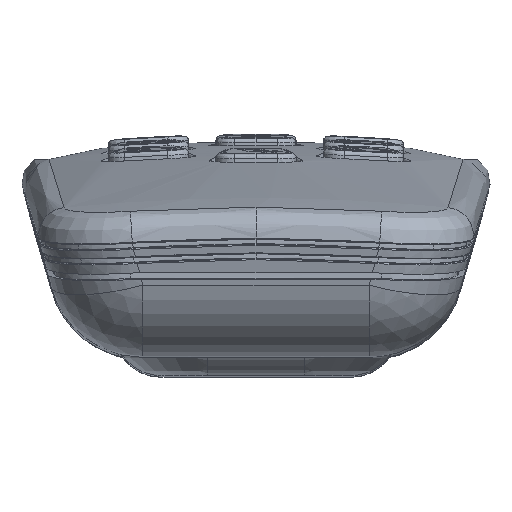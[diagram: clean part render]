
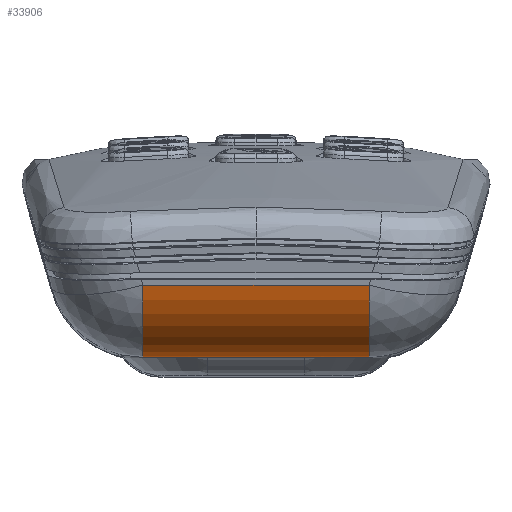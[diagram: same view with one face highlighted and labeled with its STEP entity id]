
A CAD part, top view. The second image highlights one B-rep face of the part: STEP entity #33906.
In plain terms, the highlighted cylindrical face has radius 10 mm (diameter 20 mm), a partial arc.
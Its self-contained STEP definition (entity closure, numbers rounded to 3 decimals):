
#1464=DIRECTION('',(-1.,0.,0.));
#1465=VECTOR('',#1464,8.592);
#1466=CARTESIAN_POINT('',(-3.308,-20.089,
81.598));
#1467=LINE('',#1466,#1465);
#1479=CARTESIAN_POINT('',(-3.308,-20.089,
81.598));
#1521=DIRECTION('',(-1.,0.,0.));
#1522=VECTOR('',#1521,8.592);
#1523=CARTESIAN_POINT('',(11.899,-20.089,81.598));
#1524=LINE('',#1523,#1522);
#2021=CARTESIAN_POINT('',(-3.308,-20.089,
81.598));
#2022=CARTESIAN_POINT('',(-3.201,-20.109,
81.74));
#2023=CARTESIAN_POINT('',(-2.97,-20.141,
82.01));
#2024=CARTESIAN_POINT('',(-2.563,-20.17,
82.379));
#2025=CARTESIAN_POINT('',(-2.107,-20.183,
82.693));
#2026=CARTESIAN_POINT('',(-1.612,-20.187,
82.944));
#2027=CARTESIAN_POINT('',(-1.091,-20.186,
83.126));
#2028=CARTESIAN_POINT('',(-0.551,-20.184,
83.236));
#2029=CARTESIAN_POINT('',(0.,-20.183,
83.274));
#2030=CARTESIAN_POINT('',(0.551,-20.184,
83.236));
#2031=CARTESIAN_POINT('',(1.091,-20.186,83.126));
#2032=CARTESIAN_POINT('',(1.612,-20.187,82.944));
#2033=CARTESIAN_POINT('',(2.106,-20.183,82.693));
#2034=CARTESIAN_POINT('',(2.563,-20.17,82.379));
#2035=CARTESIAN_POINT('',(2.97,-20.141,82.011));
#2036=CARTESIAN_POINT('',(3.201,-20.109,81.74));
#2037=CARTESIAN_POINT('',(3.308,-20.089,81.598));
#2039=CARTESIAN_POINT('',(-11.899,-10.187,
82.993));
#2040=DIRECTION('',(-1.,0.,0.));
#2041=DIRECTION('',(0.,-0.99,-0.139));
#2042=AXIS2_PLACEMENT_3D('',#2039,#2040,#2041);
#2044=CARTESIAN_POINT('',(11.899,-10.187,82.993));
#2045=DIRECTION('',(-1.,0.,0.));
#2046=DIRECTION('',(0.,-0.99,-0.139));
#2047=AXIS2_PLACEMENT_3D('',#2044,#2045,#2046);
#2361=DIRECTION('',(-1.,0.,0.));
#2362=VECTOR('',#2361,23.798);
#2363=CARTESIAN_POINT('',(11.899,-12.606,92.696));
#2364=LINE('',#2363,#2362);
#27518=CARTESIAN_POINT('',(-11.899,-20.089,
81.598));
#27519=CARTESIAN_POINT('',(-11.899,-12.606,
92.696));
#27520=VERTEX_POINT('',#27518);
#27521=VERTEX_POINT('',#27519);
#27530=CARTESIAN_POINT('',(11.899,-20.089,
81.598));
#27532=VERTEX_POINT('',#27530);
#27534=CARTESIAN_POINT('',(11.899,-12.606,
92.696));
#27535=VERTEX_POINT('',#27534);
#27582=VERTEX_POINT('',#1479);
#27585=VERTEX_POINT('',#2037);
#33889=CARTESIAN_POINT('',(85.295,-10.187,
82.993));
#33890=DIRECTION('',(-1.,0.,0.));
#33891=DIRECTION('',(0.,-0.99,-0.139));
#33892=AXIS2_PLACEMENT_3D('',#33889,#33890,#33891);
#33893=CYLINDRICAL_SURFACE('',#33892,10.);
#33895=ORIENTED_EDGE('',*,*,#33894,.F.);
#33896=ORIENTED_EDGE('',*,*,#32380,.T.);
#33898=ORIENTED_EDGE('',*,*,#33897,.T.);
#33900=ORIENTED_EDGE('',*,*,#33899,.F.);
#33902=ORIENTED_EDGE('',*,*,#33901,.F.);
#33903=ORIENTED_EDGE('',*,*,#32388,.T.);
#33904=EDGE_LOOP('',(#33895,#33896,#33898,#33900,#33902,#33903));
#33905=FACE_OUTER_BOUND('',#33904,.F.);
#33906=ADVANCED_FACE('',(#33905),#33893,.T.);
#2038=B_SPLINE_CURVE_WITH_KNOTS('',3,(#2021,#2022,#2023,#2024,#2025,#2026,#2027,
#2028,#2029,#2030,#2031,#2032,#2033,#2034,#2035,#2036,#2037),.UNSPECIFIED.,.F.,
.F.,(4,1,1,1,1,1,1,1,1,1,1,1,1,1,4),(0.,0.071,0.143,
0.214,0.286,0.357,0.429,0.5,
0.571,0.643,0.714,0.786,
0.857,0.929,1.),.UNSPECIFIED.);
#2043=CIRCLE('',#2042,10.);
#2048=CIRCLE('',#2047,10.);
#32380=EDGE_CURVE('',#27582,#27520,#1467,.T.);
#32388=EDGE_CURVE('',#27532,#27585,#1524,.T.);
#33894=EDGE_CURVE('',#27582,#27585,#2038,.T.);
#33897=EDGE_CURVE('',#27520,#27521,#2043,.T.);
#33899=EDGE_CURVE('',#27535,#27521,#2364,.T.);
#33901=EDGE_CURVE('',#27532,#27535,#2048,.T.);
